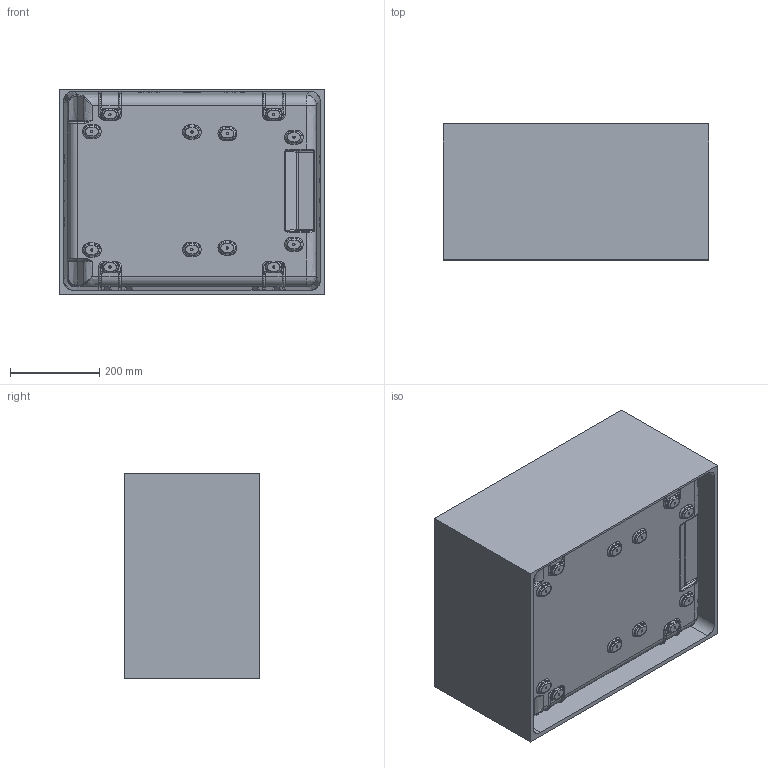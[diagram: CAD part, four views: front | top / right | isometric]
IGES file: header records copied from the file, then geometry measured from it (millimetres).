
Start section: SolidWorks IGES file using analytic representation for surfaces
Global section: file name: C:\temp\EU files dimensions 12-14-15\1620 EU  website files\1621-931B-CLR.IGS; native system: SolidWorks 2016; preprocessor: SolidWorks 2016; author: mhakami; date: 160228.203942; units: inch
Bounding box: 595.77 x 304.8 x 461.94 mm (x, y, z)
Surface area: 2741628.6 mm2 (no closed solid volume)
Topology: 0 solids, 0 shells, 1500 faces, 16914 edges, 16913 vertices
Faces by surface type: bspline 955, revolution 545
